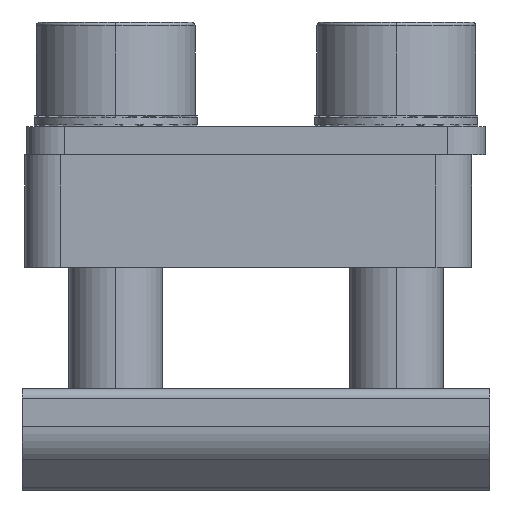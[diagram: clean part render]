
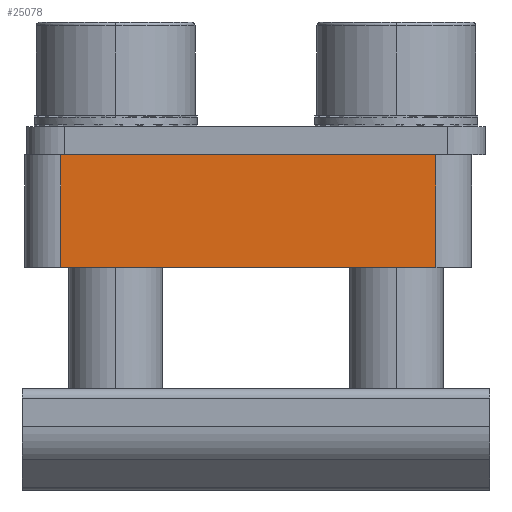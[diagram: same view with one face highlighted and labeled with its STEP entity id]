
A CAD part, front view. The second image highlights one B-rep face of the part: STEP entity #25078.
In plain terms, the highlighted planar face has unit normal (0, -1, 0).
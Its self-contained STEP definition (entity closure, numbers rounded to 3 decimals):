
#2990 = ORIENTED_EDGE ( 'NONE', *, *, #19389, .T. ) ;
#4389 = LINE ( 'NONE', #17127, #9548 ) ;
#4529 = VECTOR ( 'NONE', #13577, 1000. ) ;
#4862 = EDGE_CURVE ( 'NONE', #17685, #14616, #14749, .T. ) ;
#4937 = EDGE_CURVE ( 'NONE', #14157, #7170, #11759, .T. ) ;
#5096 = FACE_OUTER_BOUND ( 'NONE', #20469, .T. ) ;
#6637 = VECTOR ( 'NONE', #12087, 1000. ) ;
#7170 = VERTEX_POINT ( 'NONE', #19086 ) ;
#7689 = DIRECTION ( 'NONE',  ( 0., -1., 0. ) ) ;
#8057 = CARTESIAN_POINT ( 'NONE',  ( -104.72, -34.478, 49.926 ) ) ;
#9548 = VECTOR ( 'NONE', #13754, 1000. ) ;
#9627 = CARTESIAN_POINT ( 'NONE',  ( -114.743, -34.478, 46.926 ) ) ;
#11759 = LINE ( 'NONE', #15858, #6637 ) ;
#12087 = DIRECTION ( 'NONE',  ( 0., 0., -1. ) ) ;
#12617 = ORIENTED_EDGE ( 'NONE', *, *, #4937, .T. ) ;
#13577 = DIRECTION ( 'NONE',  ( -1., 0., 0. ) ) ;
#13754 = DIRECTION ( 'NONE',  ( -1., 0., 0. ) ) ;
#13892 = ORIENTED_EDGE ( 'NONE', *, *, #24382, .F. ) ;
#14157 = VERTEX_POINT ( 'NONE', #16118 ) ;
#14616 = VERTEX_POINT ( 'NONE', #19049 ) ;
#14749 = LINE ( 'NONE', #8057, #25015 ) ;
#14782 = LINE ( 'NONE', #9627, #4529 ) ;
#15016 = ORIENTED_EDGE ( 'NONE', *, *, #4862, .T. ) ;
#15858 = CARTESIAN_POINT ( 'NONE',  ( -124.766, -34.478, 49.926 ) ) ;
#16118 = CARTESIAN_POINT ( 'NONE',  ( -124.766, -34.478, 52.926 ) ) ;
#17127 = CARTESIAN_POINT ( 'NONE',  ( -114.743, -34.478, 52.926 ) ) ;
#17685 = VERTEX_POINT ( 'NONE', #22123 ) ;
#18854 = AXIS2_PLACEMENT_3D ( 'NONE', #19209, #7689, #21168 ) ;
#19049 = CARTESIAN_POINT ( 'NONE',  ( -104.72, -34.478, 52.926 ) ) ;
#19086 = CARTESIAN_POINT ( 'NONE',  ( -124.766, -34.478, 46.926 ) ) ;
#19209 = CARTESIAN_POINT ( 'NONE',  ( -124.766, -34.478, 52.926 ) ) ;
#19389 = EDGE_CURVE ( 'NONE', #14616, #14157, #4389, .T. ) ;
#20469 = EDGE_LOOP ( 'NONE', ( #2990, #12617, #13892, #15016 ) ) ;
#21094 = PLANE ( 'NONE',  #18854 ) ;
#21168 = DIRECTION ( 'NONE',  ( 0., 0., -1. ) ) ;
#21511 = DIRECTION ( 'NONE',  ( 0., 0., 1. ) ) ;
#22123 = CARTESIAN_POINT ( 'NONE',  ( -104.72, -34.478, 46.926 ) ) ;
#24382 = EDGE_CURVE ( 'NONE', #17685, #7170, #14782, .T. ) ;
#25015 = VECTOR ( 'NONE', #21511, 1000. ) ;
#25078 = ADVANCED_FACE ( 'NONE', ( #5096 ), #21094, .T. ) ;
